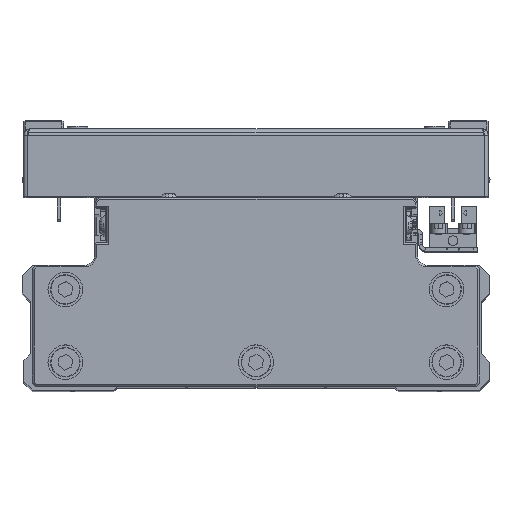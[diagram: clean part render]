
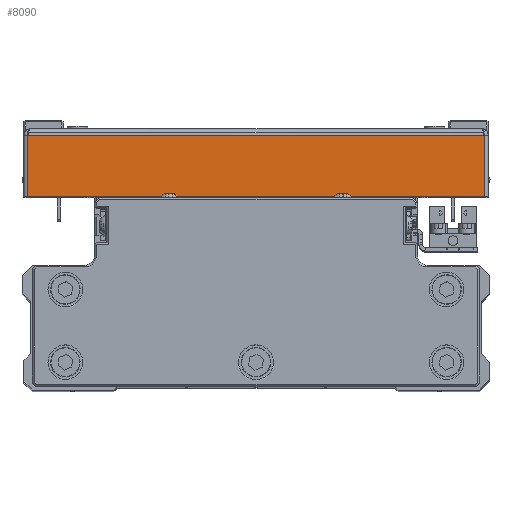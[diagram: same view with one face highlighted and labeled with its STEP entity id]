
A CAD part, top view. The second image highlights one B-rep face of the part: STEP entity #8090.
In plain terms, the highlighted planar face has unit normal (0, 0, 1) as drawn and (1, 0, 0) by its records, which use the part's own axes.
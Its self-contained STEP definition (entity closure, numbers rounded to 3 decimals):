
#410 = VERTEX_POINT ( 'NONE', #31245 ) ;
#1186 = CARTESIAN_POINT ( 'NONE',  ( 100., 0., 65.929 ) ) ;
#1239 = EDGE_CURVE ( 'NONE', #410, #16846, #40991, .T. ) ;
#2888 = VERTEX_POINT ( 'NONE', #41493 ) ;
#3040 = EDGE_LOOP ( 'NONE', ( #13972, #23374, #18856, #29153 ) ) ;
#5703 = CARTESIAN_POINT ( 'NONE',  ( 100., 0., 0. ) ) ;
#8090 = ADVANCED_FACE ( 'NONE', ( #22428 ), #35887, .F. ) ;
#8495 = CARTESIAN_POINT ( 'NONE',  ( 100., 1., 65.929 ) ) ;
#8531 = EDGE_CURVE ( 'NONE', #2888, #31437, #26589, .T. ) ;
#9835 = DIRECTION ( 'NONE',  ( 0., 0., 1. ) ) ;
#10813 = CARTESIAN_POINT ( 'NONE',  ( 100., 18.5, 0. ) ) ;
#11844 = VECTOR ( 'NONE', #24241, 1000. ) ;
#12170 = LINE ( 'NONE', #25608, #29143 ) ;
#13972 = ORIENTED_EDGE ( 'NONE', *, *, #8531, .F. ) ;
#14635 = DIRECTION ( 'NONE',  ( 0., 1., 0. ) ) ;
#16846 = VERTEX_POINT ( 'NONE', #24598 ) ;
#18856 = ORIENTED_EDGE ( 'NONE', *, *, #1239, .T. ) ;
#19125 = DIRECTION ( 'NONE',  ( -1., 0., 0. ) ) ;
#22428 = FACE_OUTER_BOUND ( 'NONE', #3040, .T. ) ;
#23374 = ORIENTED_EDGE ( 'NONE', *, *, #40829, .T. ) ;
#24241 = DIRECTION ( 'NONE',  ( 0., 0., 1. ) ) ;
#24598 = CARTESIAN_POINT ( 'NONE',  ( 100., 18.5, 65.929 ) ) ;
#25608 = CARTESIAN_POINT ( 'NONE',  ( 100., 0., -65.929 ) ) ;
#26478 = AXIS2_PLACEMENT_3D ( 'NONE', #5703, #19125, #32586 ) ;
#26589 = LINE ( 'NONE', #40020, #42074 ) ;
#27654 = VECTOR ( 'NONE', #14635, 1000. ) ;
#29143 = VECTOR ( 'NONE', #39044, 1000. ) ;
#29153 = ORIENTED_EDGE ( 'NONE', *, *, #37750, .F. ) ;
#31245 = CARTESIAN_POINT ( 'NONE',  ( 100., 18.5, -65.929 ) ) ;
#31376 = LINE ( 'NONE', #1186, #27654 ) ;
#31437 = VERTEX_POINT ( 'NONE', #8495 ) ;
#32586 = DIRECTION ( 'NONE',  ( 0., -1., 0. ) ) ;
#35887 = PLANE ( 'NONE',  #26478 ) ;
#37750 = EDGE_CURVE ( 'NONE', #31437, #16846, #31376, .T. ) ;
#39044 = DIRECTION ( 'NONE',  ( 0., 1., 0. ) ) ;
#40020 = CARTESIAN_POINT ( 'NONE',  ( 100., 1., 67. ) ) ;
#40829 = EDGE_CURVE ( 'NONE', #2888, #410, #12170, .T. ) ;
#40991 = LINE ( 'NONE', #10813, #11844 ) ;
#41493 = CARTESIAN_POINT ( 'NONE',  ( 100., 1., -65.929 ) ) ;
#42074 = VECTOR ( 'NONE', #9835, 1000. ) ;
